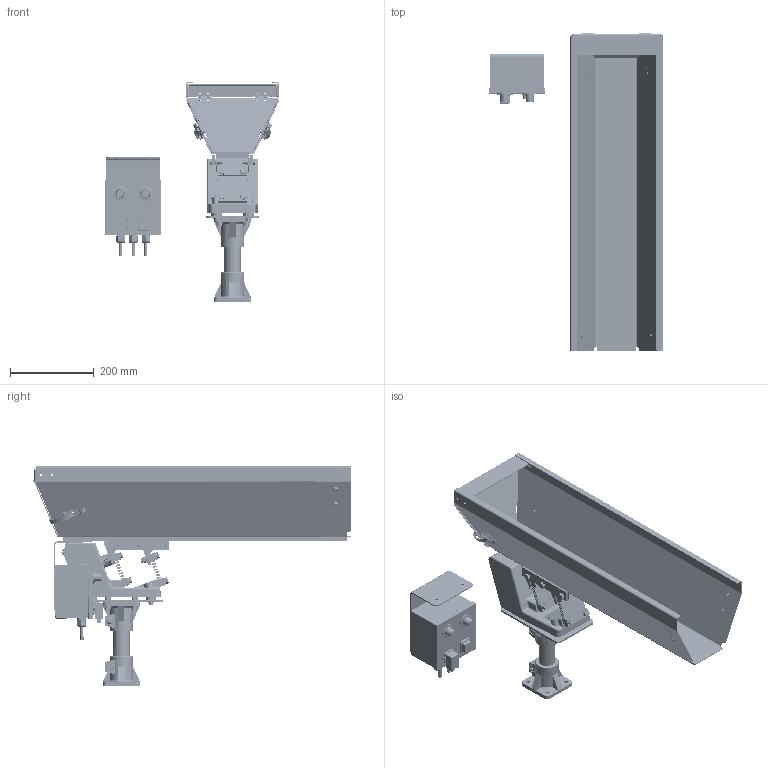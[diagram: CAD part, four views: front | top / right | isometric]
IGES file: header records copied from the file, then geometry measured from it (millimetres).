
Start section: SolidWorks IGES file using analytic representation for surfaces
Global section: file name: C:\Users\ufficiotecnico\OneDrive - Ars Srl\Desktop\Bulk Feeder 20 lt\Bulk feeder 20 lt V2.0.IGS; native system: SolidWorks 2020; preprocessor: SolidWorks 2020; author: ufficiotecnico; date: 211116.153649; units: millimetre
Bounding box: 415.32 x 760.5 x 524.84 mm (x, y, z)
Surface area: 1660473.9 mm2 (no closed solid volume)
Topology: 0 solids, 0 shells, 8553 faces, 81235 edges, 80886 vertices
Faces by surface type: revolution 6921, bspline 1632
